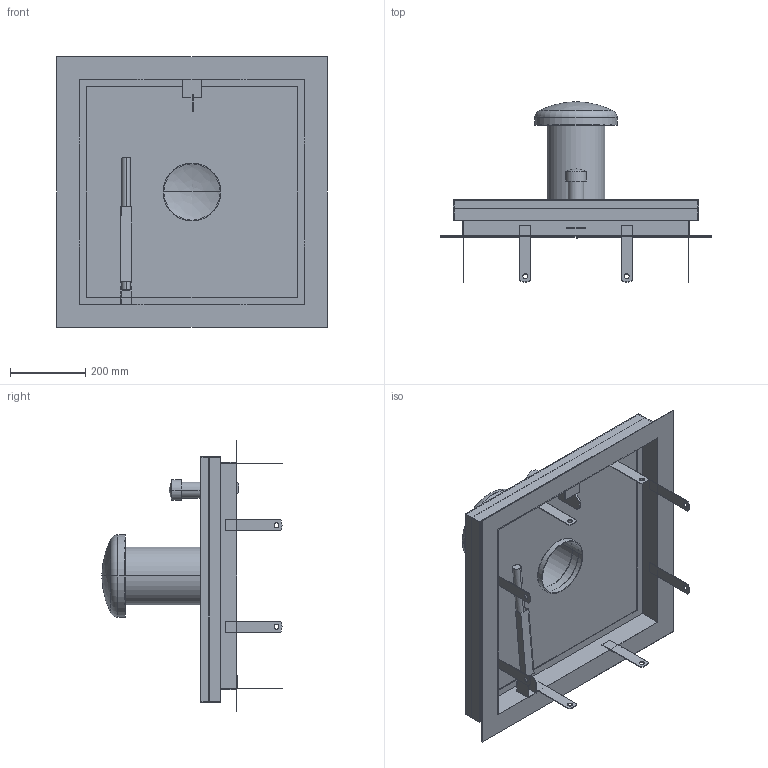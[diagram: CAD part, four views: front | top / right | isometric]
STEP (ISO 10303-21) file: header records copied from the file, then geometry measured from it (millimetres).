
FILE_DESCRIPTION((''),'2;1');
FILE_NAME('52335827','2024-12-19T07:20:07',('wep'),('HUBER SE'),'CREO PARAMETRIC BY PTC INC, 2022162','CREO PARAMETRIC BY PTC INC, 2022162','');
FILE_SCHEMA(('AUTOMOTIVE_DESIGN { 1 0 10303 214 1 1 1 1 }'));
Length unit declared in the file: millimetre
Products named in the file (1): 52335827
Bounding box: 720 x 479 x 720 mm (x, y, z)
Volume: 3076169.9 mm3; surface area: 3123081.2 mm2
Topology: 4 solids, 5 shells, 757 faces, 2048 edges, 1353 vertices
Faces by surface type: plane 425, extrusion 275, cylinder 47, torus 4, bspline 4, sphere 2
Entity records: 25578 total; most frequent: CARTESIAN_POINT 6831, ORIENTED_EDGE 4084, DIRECTION 2831, EDGE_CURVE 2042, VECTOR 1659, LINE 1384, VERTEX_POINT 1353, EDGE_LOOP 835
